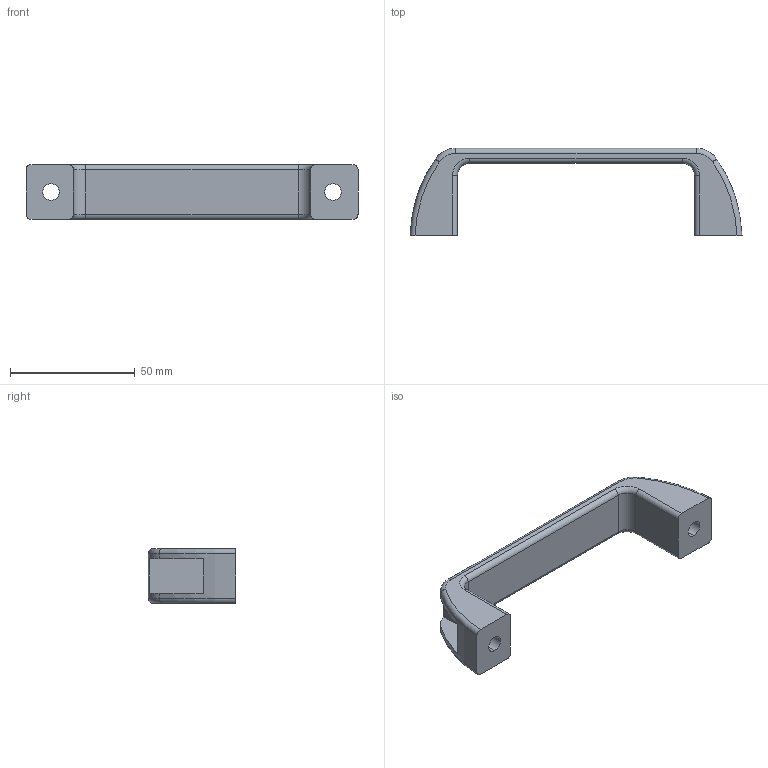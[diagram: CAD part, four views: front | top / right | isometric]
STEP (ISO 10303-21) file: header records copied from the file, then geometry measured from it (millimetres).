
FILE_DESCRIPTION (( 'STEP AP214' ), '1' );
FILE_NAME ('J3GB.step', '2017-05-24T07:39:12', ( 'admin' ), ( '' ), 'SwSTEP 2.0', 'SolidWorks 2014', '' );
FILE_SCHEMA (( 'AUTOMOTIVE_DESIGN' ));
Length unit declared in the file: millimetre
Products named in the file (1): J3GB
Bounding box: 133 x 35 x 22 mm (x, y, z)
Volume: 27049.8 mm3; surface area: 12353.6 mm2
Topology: 1 solids, 1 shells, 52 faces, 128 edges, 80 vertices
Faces by surface type: cylinder 22, plane 18, torus 12
Entity records: 1638 total; most frequent: CARTESIAN_POINT 313, DIRECTION 298, ORIENTED_EDGE 256, EDGE_CURVE 128, AXIS2_PLACEMENT_3D 121, VERTEX_POINT 80, CIRCLE 68, EDGE_LOOP 58
